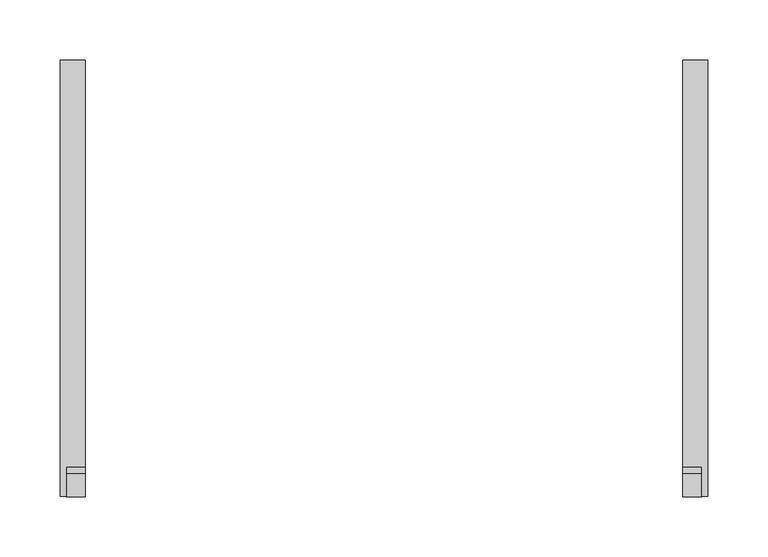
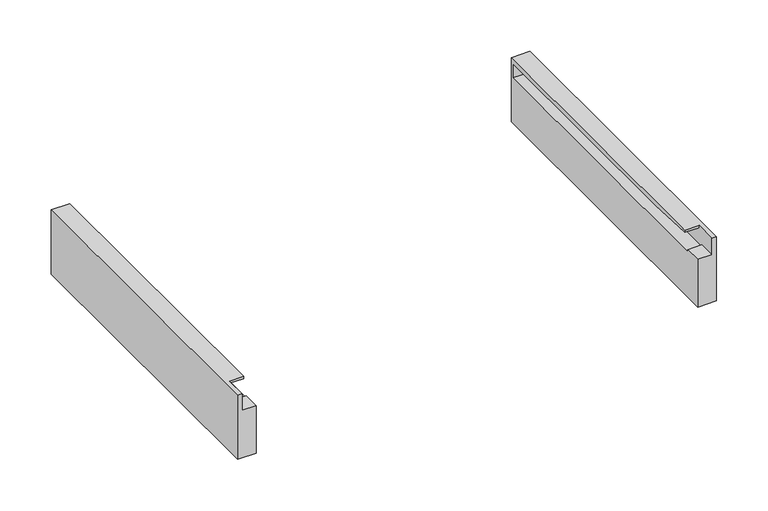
"""IFC4 building model written with IfcOpenShell, lengths in millimetres: furniture geometry."""

from ifc_helpers import new_model, si_unit, origin, place, context, project, spatial, faceted_brep, source, transform, mapped, element, save


def furniture_c85c507a(model_context):
    return source(origin(), model_context, "Body", "Brep", [
        faceted_brep([(181.9885914, 107.9182425, 806.45), (181.9885914, -254.0317575, 806.45), (181.9885914, -254.0317575, 862.993575), (181.9885914, -234.9817598, 862.993575), (181.9885914, -234.9817598, 860.6186746), (181.9885914, 104.7432546, 860.6186746), (181.9885914, 104.7432546, 877.1286753), (181.9885914, -171.8442885, 877.1286753), (181.9885914, -229.4191588, 879.8972753), (181.9885914, -229.4191588, 882.65), (181.9885914, 107.9182425, 882.65), (202.6133923, -254.0317575, 806.45), (202.6133923, 107.9182425, 806.45), (202.6133923, 107.9182425, 882.65), (202.6133923, -254.0317575, 882.65), (197.8636035, -254.0317575, 882.65), (197.8636035, -254.0317575, 862.993575), (197.8636035, -234.9817598, 862.993575), (197.8636035, -234.9817598, 860.6186746), (197.8636035, 104.7432546, 860.6186746), (197.8636035, -229.4191588, 882.65), (197.8636035, -229.4191588, 879.8972753), (197.8636035, -171.8442885, 877.1286753), (197.8636035, 104.7432546, 877.1286753)], [[[0, 1, 2, 3, 4, 5, 6, 7, 8, 9, 10]], [[11, 12, 13, 14]], [[1, 0, 12, 11]], [[2, 1, 11, 14, 15, 16]], [[3, 2, 16, 17]], [[4, 3, 17, 18]], [[4, 18, 19, 5]], [[0, 10, 13, 12]], [[16, 15, 20, 21, 22, 23, 19, 18, 17]], [[14, 13, 10, 9, 20, 15]], [[8, 7, 22, 21]], [[9, 8, 21, 20]], [[6, 5, 19, 23]], [[7, 6, 23, 22]]]),
        faceted_brep([(-333.9616077, 107.9182425, 806.45), (-333.9616077, -254.0317575, 806.45), (-333.9616077, -254.0317575, 882.65), (-333.9616077, 107.9182425, 882.65), (-313.3368022, 107.9182425, 882.65), (-313.3368022, -229.4191588, 882.65), (-313.3368022, -229.4191588, 879.8972753), (-313.3368022, -171.8442885, 877.1286753), (-313.3368022, 104.7432546, 877.1286753), (-313.3368022, 104.7432546, 860.6186746), (-313.3368022, -234.9817598, 860.6186746), (-313.3368022, -234.9817598, 862.993575), (-313.3368022, -254.0317575, 862.993575), (-313.3368022, -254.0317575, 806.45), (-313.3368022, 107.9182425, 806.45), (-329.2118016, -254.0317575, 862.993575), (-329.2118016, -254.0317575, 882.65), (-329.2118016, -234.9817598, 862.993575), (-329.2118016, -234.9817598, 860.6186746), (-329.2118016, 104.7432546, 860.6186746), (-329.2118016, 104.7432546, 877.1286753), (-329.2118016, -171.8442885, 877.1286753), (-329.2118016, -229.4191588, 879.8972753), (-329.2118016, -229.4191588, 882.65)], [[[0, 1, 2, 3]], [[4, 5, 6, 7, 8, 9, 10, 11, 12, 13, 14]], [[1, 0, 14, 13]], [[13, 12, 15, 16, 2, 1]], [[12, 11, 17, 15]], [[11, 10, 18, 17]], [[18, 10, 9, 19]], [[4, 14, 0, 3]], [[16, 15, 17, 18, 19, 20, 21, 22, 23]], [[4, 3, 2, 16, 23, 5]], [[9, 8, 20, 19]], [[8, 7, 21, 20]], [[7, 6, 22, 21]], [[6, 5, 23, 22]]]),
    ])


if __name__ == "__main__":
    model = new_model("IFC4")
    model_context = context("Model", 3, world=origin())
    ifc_project = project(units=[si_unit("LENGTHUNIT", "METRE", prefix="MILLI")], contexts=[model_context])
    site = spatial("IfcSite", under=ifc_project)
    building = spatial("IfcBuilding", under=site)
    placement = place(None, origin())
    furniture_shape = furniture_c85c507a(model_context)
    element("IfcFurniture", 1, ObjectType="HermanMiller_CoStruc_CO396_LockableDrawerBearer : 3\"H x 15\"D x 21\"W", at=placement, inside=building, context=model_context, shape_type="MappedRepresentation", body=[
        mapped(furniture_shape, transform((0.0, 0.0, 0.0), x_axis=(1.0, 0.0, 0.0), y_axis=(0.0, 1.0, 0.0), z_axis=(0.0, 0.0, 1.0))),
    ])
    save(model, "model.ifc")
